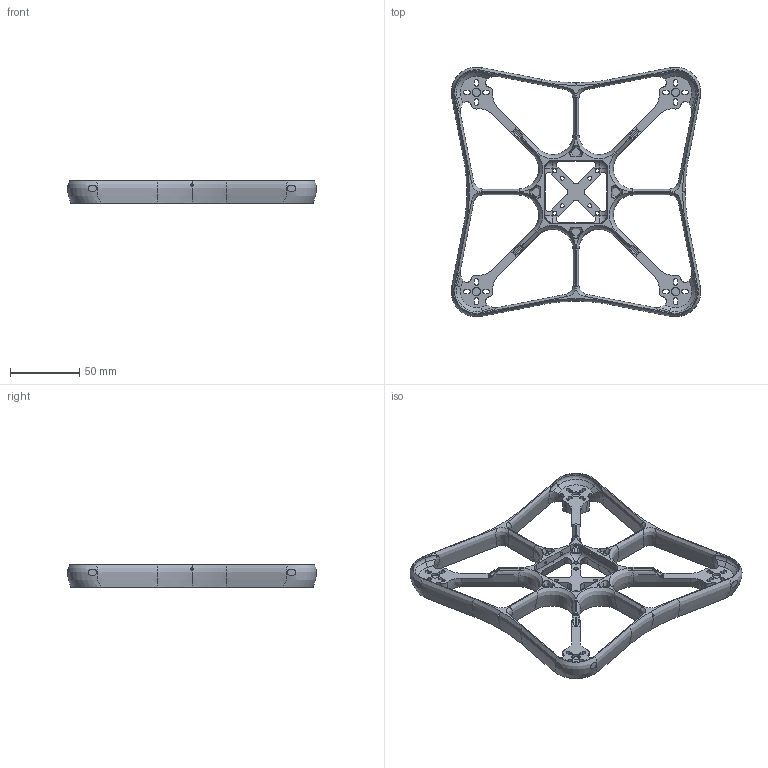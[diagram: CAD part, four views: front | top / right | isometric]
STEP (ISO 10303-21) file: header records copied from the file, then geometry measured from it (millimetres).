
FILE_DESCRIPTION(('FreeCAD Model'),'2;1');
FILE_NAME('Open CASCADE Shape Model','2023-03-30T23:58:51',(''),(''), 'Open CASCADE STEP processor 7.6','FreeCAD','Unknown');
FILE_SCHEMA(('AUTOMOTIVE_DESIGN { 1 0 10303 214 1 1 1 1 }'));
Products named in the file (1): Frame 144mm
Bounding box: 180 x 180 x 16 mm (x, y, z)
Volume: 84986.6 mm3; surface area: 55868.3 mm2
Topology: 1 solids, 1 shells, 617 faces, 1656 edges, 1026 vertices
Faces by surface type: bspline 240, cylinder 158, plane 151, cone 48, torus 16, sphere 4
Full cylindrical faces by diameter (mm): 2 x8, 3 x8, 6 x12
Entity records: 82960 total; most frequent: CARTESIAN_POINT 54064, DIRECTION 4158, ORIENTED_EDGE 3304, PCURVE 3304, DEFINITIONAL_REPRESENTATION 3304, LINE 2302, VECTOR 2302, B_SPLINE_CURVE_WITH_KNOTS 1666
